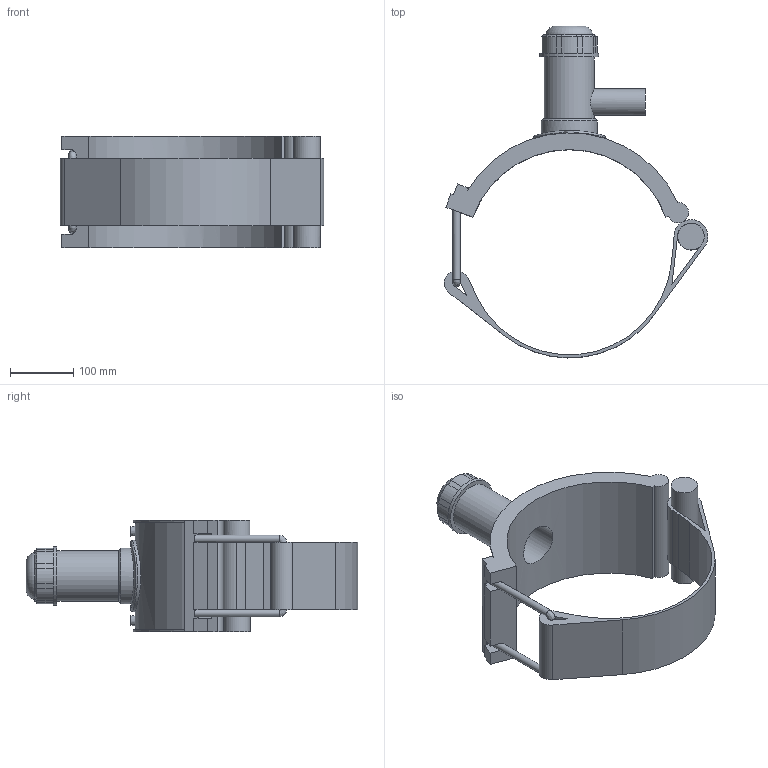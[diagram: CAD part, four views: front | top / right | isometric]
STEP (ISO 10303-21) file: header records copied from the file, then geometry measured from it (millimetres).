
FILE_DESCRIPTION(/* description */ ('PLASSON HIGH VOLUME TAPPING TEE 12''''IPS x 1 1/4''''IPS'),/* implementation_level */ '2;1');
FILE_NAME(/* name */ 'C:\Dropbox\KIMPROJECTS-Inventor 2019\99-16-3568-Processing Inch\ASTM ElectroFusion 2021\5913B\5913BB03120013.ipt.stp',/* time_stamp */ '2021-08-30T09:50:53+03:00',/* author */ ('KIM'),/* organization */ (''),/* preprocessor_version */ 'ST-DEVELOPER v17.2',/* originating_system */ 'Autodesk Inventor 2019',/* authorisation */ '');
FILE_SCHEMA (('AUTOMOTIVE_DESIGN { 1 0 10303 214 3 1 1 }'));
Length unit declared in the file: millimetre
Products named in the file (1): 5913BB03120013
Bounding box: 415.47 x 523.04 x 176.02 mm (x, y, z)
Volume: 3271659.3 mm3; surface area: 491101.8 mm2
Topology: 1 solids, 1 shells, 125 faces, 328 edges, 206 vertices
Faces by surface type: plane 69, cylinder 41, cone 11, bspline 3, torus 1
Full cylindrical faces by diameter (mm): 4 x2, 10 x2, 11.642 x2, 33.68 x1, 42.042 x1, 42.1 x1, 64.971 x1, 78.893 x1, 88.175 x1, 92.816 x1, 113.19 x1
Entity records: 4505 total; most frequent: CARTESIAN_POINT 1314, DIRECTION 667, ORIENTED_EDGE 654, EDGE_CURVE 327, AXIS2_PLACEMENT_3D 240, VERTEX_POINT 206, LINE 187, VECTOR 187
